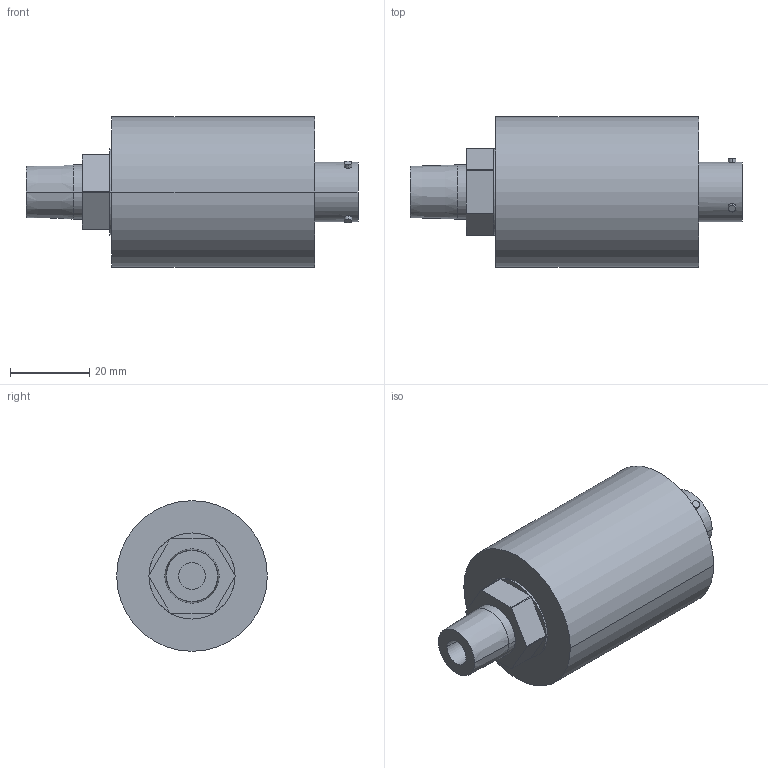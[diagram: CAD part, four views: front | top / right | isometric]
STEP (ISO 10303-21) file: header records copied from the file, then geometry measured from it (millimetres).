
FILE_DESCRIPTION(('STEP AP214'),'1');
FILE_NAME('burster_8267-5002_a0l2www4zd72d9butnx2ar4zi.stp','2017-04-19T20:03:46',('TraceParts'),('TraceParts S.A.'),'Spatial InterOp 3D',' ',' ');
FILE_SCHEMA(('automotive_design'));
Length unit declared in the file: millimetre
Products named in the file (1): burster_8267-5002_a0l2www4zd72d9butnx2ar4zi
Bounding box: 84 x 38.1 x 38.1 mm (x, y, z)
Volume: 62900.6 mm3; surface area: 10994.8 mm2
Topology: 1 solids, 1 shells, 60 faces, 133 edges, 88 vertices
Faces by surface type: cylinder 30, plane 28, cone 2
Entity records: 2313 total; most frequent: CARTESIAN_POINT 418, DIRECTION 315, ORIENTED_EDGE 266, EDGE_CURVE 133, AXIS2_PLACEMENT_3D 129, VERTEX_POINT 88, EDGE_LOOP 73, CIRCLE 68
